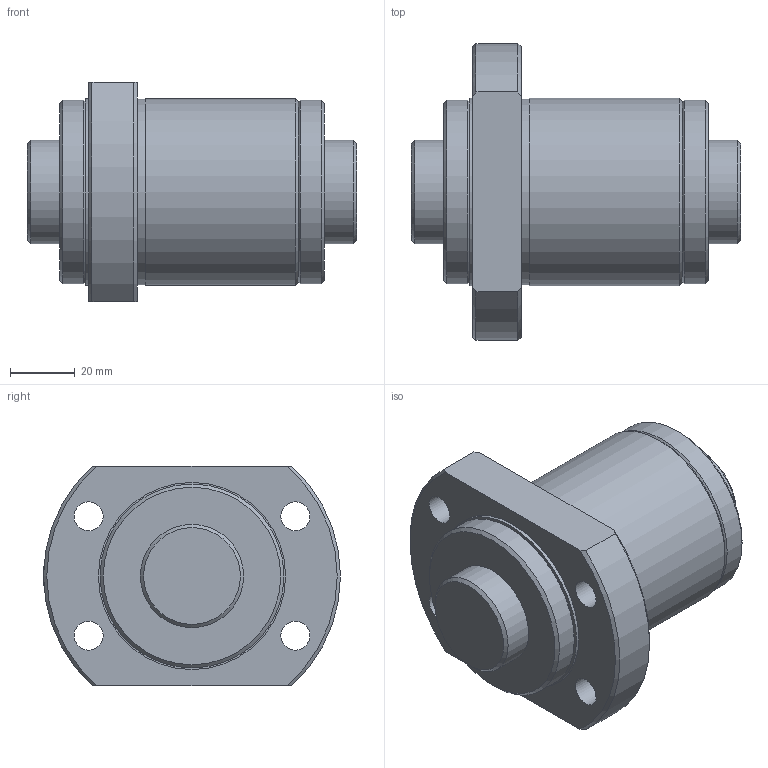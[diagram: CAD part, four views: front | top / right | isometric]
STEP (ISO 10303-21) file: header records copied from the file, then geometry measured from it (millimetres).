
FILE_DESCRIPTION(/* description */ ('STEP AP203'),/* implementation_level */ '2;1');
FILE_NAME(/* name */ 'SBK3220-5.6RRG0+102LC0(0000)',/* time_stamp */ '2024-05-28T11:19:56+02:00',/* author */ ('License CC BY-ND 4.0'),/* organization */ ('CADENAS'),/* preprocessor_version */ 'ST-DEVELOPER v19.3',/* originating_system */ 'PARTsolutions',/* authorisation */ ' ');
FILE_SCHEMA (('CONFIG_CONTROL_DESIGN'));
Length unit declared in the file: millimetre
Products named in the file (3): SBK3220-5.6RRG0+102LC0(0000); NRR000SBK 3220-5.60Shaft; NRR000SBK 3220-5.6Nut
Assembly tree (2 placements, depth 2):
  SBK3220-5.6RRG0+102LC0(0000)
    NRR000SBK 3220-5.60Shaft
    NRR000SBK 3220-5.6Nut
Bounding box: 102 x 92 x 68 mm (x, y, z)
Volume: 271194.9 mm3; surface area: 47258.4 mm2
Topology: 2 solids, 2 shells, 37 faces, 78 edges, 49 vertices
Faces by surface type: cylinder 14, cone 13, plane 10
Full cylindrical faces by diameter (mm): 4.917 x1, 9 x4, 32 x2, 57 x2, 57.6 x1, 58 x2
Entity records: 990 total; most frequent: CARTESIAN_POINT 177, DIRECTION 164, ORIENTED_EDGE 110, AXIS2_PLACEMENT_3D 78, FACE_BOUND 73, EDGE_LOOP 72, EDGE_CURVE 55, VERTEX_POINT 48
